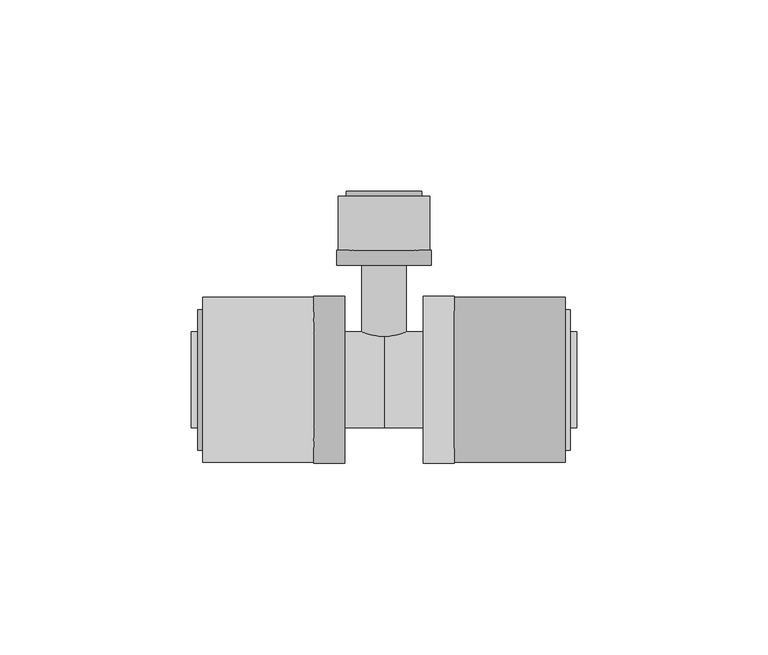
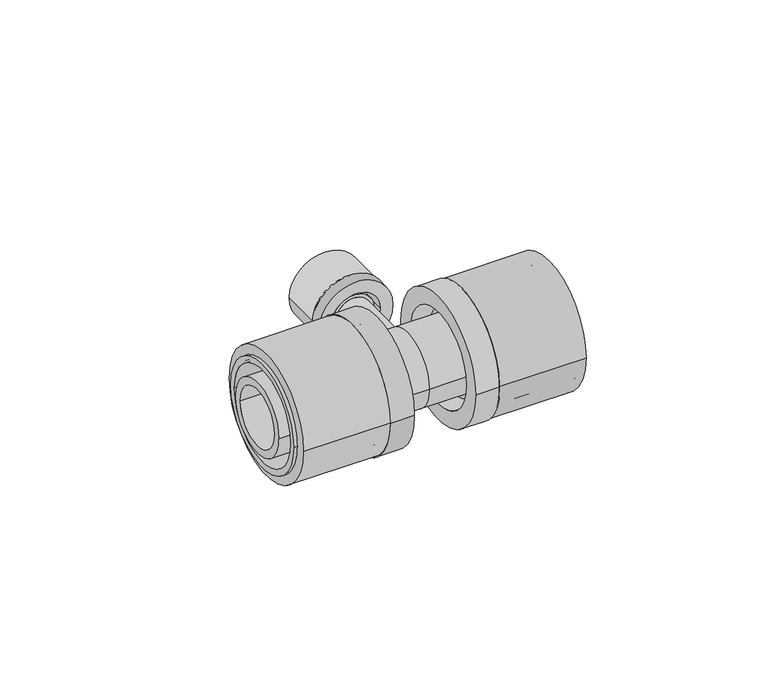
"""IFC4 building model written with IfcOpenShell, lengths in millimetres: pipe fitting geometry, FASTLOC_T-piece_EX+ : FSL T-Piece EX+ AT."""

from ifc_helpers import new_model, si_unit, point, frame, origin, origin_2d, place, context, project, spatial, polyline, circle_curve, trimmed, segment, composite_curve, outline, extrude, source, transform, mapped, element, save
from ifc_brep_helpers import plane_surface, cylinder_surface, revolved_surface, advanced_brep


def pipe_fitting_e42a4af1(model_context):
    return source(origin(), model_context, "Body", "SolidModel", [
        extrude(outline(composite_curve([segment(trimmed(circle_curve(origin_2d(), 21.5), [point((-21.5, 0.0))], [point((21.5, 0.0))], False, "CARTESIAN"), True, "CONTINUOUS"), segment(trimmed(circle_curve(origin_2d(), 21.5), [point((21.5, 0.0))], [point((-21.5, 0.0))], False, "CARTESIAN"), True, "CONTINUOUS")], self_intersect=False), holes=[composite_curve([segment(trimmed(circle_curve(origin_2d(), 16.85), [point((-16.85, 0.0))], [point((16.85, 0.0))], True, "CARTESIAN"), True, "CONTINUOUS"), segment(trimmed(circle_curve(origin_2d(), 16.85), [point((16.85, 0.0))], [point((-16.85, 0.0))], True, "CARTESIAN"), True, "CONTINUOUS")], self_intersect=False)]), frame((18.3, 0.0, 0.0), z_axis=(1.0, 0.0, 0.0), x_axis=(0.0, 1.0, 0.0)), (0.0, 0.0, 1.0), 29.0),
        advanced_brep(
        [(18.3, 21.8, 0.0), (18.3, -21.8, 0.0), (10.3, -21.8, 0.0), (10.3, 21.8, 0.0), (48.6, 18.35, 0.0), (48.6, -18.35, 0.0), (18.3, -18.35, 0.0), (18.3, 18.35, 0.0), (10.3, 16.2, 0.0), (10.3, -16.2, 0.0), (48.6, -16.2, 0.0), (48.6, 16.2, 0.0)],
        [
            (0, 1, circle_curve(frame((18.3, 0.0, 0.0), z_axis=(-1.0, 0.0, 0.0), x_axis=(0.0, -1.0, 0.0)), 21.8)),
            (1, 2),
            (2, 3, circle_curve(frame((10.3, 0.0, 0.0), z_axis=(1.0, 0.0, 0.0), x_axis=(0.0, -1.0, 0.0)), 21.8)),
            (3, 0),
            (4, 5, circle_curve(frame((48.6, 0.0, 0.0), z_axis=(-1.0, 0.0, 0.0), x_axis=(0.0, -1.0, 0.0)), 18.35)),
            (5, 6),
            (6, 7, circle_curve(frame((18.3, 0.0, 0.0), z_axis=(1.0, 0.0, 0.0), x_axis=(0.0, -1.0, 0.0)), 18.35)),
            (7, 4),
            (8, 9, circle_curve(frame((10.3, 0.0, 0.0), z_axis=(-1.0, 0.0, 0.0), x_axis=(0.0, -1.0, 0.0)), 16.2)),
            (9, 10),
            (10, 11, circle_curve(frame((48.6, 0.0, 0.0), z_axis=(1.0, 0.0, 0.0), x_axis=(0.0, -1.0, 0.0)), 16.2)),
            (11, 8),
            (1, 0, circle_curve(frame((18.3, 0.0, 0.0), z_axis=(-1.0, 0.0, 0.0), x_axis=(0.0, 1.0, 0.0)), 21.8)),
            (3, 2, circle_curve(frame((10.3, 0.0, 0.0), z_axis=(1.0, 0.0, 0.0), x_axis=(0.0, 1.0, 0.0)), 21.8)),
            (6, 7, circle_curve(frame((18.3, 0.0, 0.0), z_axis=(-1.0, 0.0, 0.0), x_axis=(0.0, 1.0, 0.0)), 18.35)),
            (5, 4, circle_curve(frame((48.6, 0.0, 0.0), z_axis=(-1.0, 0.0, 0.0), x_axis=(0.0, 1.0, 0.0)), 18.35)),
            (10, 11, circle_curve(frame((48.6, 0.0, 0.0), z_axis=(-1.0, 0.0, 0.0), x_axis=(0.0, 1.0, 0.0)), 16.2)),
            (9, 8, circle_curve(frame((10.3, 0.0, 0.0), z_axis=(-1.0, 0.0, 0.0), x_axis=(0.0, 1.0, 0.0)), 16.2)),
        ],
        [
            cylinder_surface(frame((10.3, 0.0, 0.0), z_axis=(1.0, 0.0, 0.0), x_axis=(0.0, -1.0, 0.0)), 21.8),
            cylinder_surface(frame((10.3, 0.0, 0.0), z_axis=(1.0, 0.0, 0.0), x_axis=(0.0, -1.0, 0.0)), 18.35),
            revolved_surface(polyline([(48.599999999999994, -16.2, 0.0), (10.3, -16.2, 0.0)]), (10.3, 0.0, 0.0), (1.0, 0.0, 0.0)),
            cylinder_surface(frame((10.3, 0.0, 0.0), z_axis=(1.0, 0.0, 0.0), x_axis=(0.0, 1.0, 0.0)), 21.8),
            plane_surface(frame((18.3, 0.0, 0.0), z_axis=(1.0, 0.0, 0.0), x_axis=(0.0, 1.0, 0.0))),
            cylinder_surface(frame((10.3, 0.0, 0.0), z_axis=(1.0, 0.0, 0.0), x_axis=(0.0, 1.0, 0.0)), 18.35),
            plane_surface(frame((48.6, 0.0, 0.0), z_axis=(1.0, 0.0, 0.0), x_axis=(0.0, 1.0, 0.0))),
            revolved_surface(polyline([(48.599999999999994, 16.2, 0.0), (10.3, 16.2, 0.0)]), (10.3, 0.0, 0.0), (1.0, 0.0, 0.0)),
            plane_surface(frame((10.3, 0.0, 0.0), z_axis=(-1.0, 0.0, 0.0), x_axis=(0.0, 1.0, 0.0))),
        ],
        [
            (0, [[1, 2, 3, 4]]),
            (1, [[5, 6, 7, 8]]),
            (2, [[9, 10, 11, 12]]),
            (3, [[13, -4, 14, -2]]),
            (4, [[-13, -1], [15, -7]]),
            (5, [[16, -8, -15, -6]]),
            (6, [[-16, -5], [17, -11]]),
            (7, [[18, -12, -17, -10]]),
            (8, [[-14, -3], [-18, -9]]),
        ],
    ),
        extrude(outline(composite_curve([segment(trimmed(circle_curve(origin_2d(), 21.5), [point((21.5, 0.0))], [point((-21.5, 0.0))], False, "CARTESIAN"), True, "CONTINUOUS"), segment(trimmed(circle_curve(origin_2d(), 21.5), [point((-21.5, 0.0))], [point((21.5, 0.0))], False, "CARTESIAN"), True, "CONTINUOUS")], self_intersect=False), holes=[composite_curve([segment(trimmed(circle_curve(origin_2d(), 16.85), [point((16.85, 0.0))], [point((-16.85, 0.0))], True, "CARTESIAN"), True, "CONTINUOUS"), segment(trimmed(circle_curve(origin_2d(), 16.85), [point((-16.85, 0.0))], [point((16.85, 0.0))], True, "CARTESIAN"), True, "CONTINUOUS")], self_intersect=False)]), frame((-47.3, 0.0, 0.0), z_axis=(1.0, 0.0, 0.0), x_axis=(0.0, 1.0, 0.0)), (0.0, 0.0, 1.0), 29.0),
        advanced_brep(
        [(-18.3, -21.8, 0.0), (-18.3, 21.8, 0.0), (-10.3, 21.8, 0.0), (-10.3, -21.8, 0.0), (-48.6, -18.35, 0.0), (-48.6, 18.35, 0.0), (-18.3, 18.35, 0.0), (-18.3, -18.35, 0.0), (-10.3, -16.2, 0.0), (-10.3, 16.2, 0.0), (-48.6, 16.2, 0.0), (-48.6, -16.2, 0.0)],
        [
            (0, 1, circle_curve(frame((-18.3, 0.0, 0.0), z_axis=(1.0, 0.0, 0.0), x_axis=(0.0, 1.0, 0.0)), 21.8)),
            (1, 2),
            (2, 3, circle_curve(frame((-10.3, 0.0, 0.0), z_axis=(-1.0, 0.0, 0.0), x_axis=(0.0, 1.0, 0.0)), 21.8)),
            (3, 0),
            (4, 5, circle_curve(frame((-48.6, 0.0, 0.0), z_axis=(1.0, 0.0, 0.0), x_axis=(0.0, 1.0, 0.0)), 18.35)),
            (5, 6),
            (6, 7, circle_curve(frame((-18.3, 0.0, 0.0), z_axis=(-1.0, 0.0, 0.0), x_axis=(0.0, 1.0, 0.0)), 18.35)),
            (7, 4),
            (8, 9, circle_curve(frame((-10.3, 0.0, 0.0), z_axis=(1.0, 0.0, 0.0), x_axis=(0.0, 1.0, 0.0)), 16.2)),
            (9, 10),
            (10, 11, circle_curve(frame((-48.6, 0.0, 0.0), z_axis=(-1.0, 0.0, 0.0), x_axis=(0.0, 1.0, 0.0)), 16.2)),
            (11, 8),
            (1, 0, circle_curve(frame((-18.3, 0.0, 0.0), z_axis=(1.0, 0.0, 0.0), x_axis=(0.0, -1.0, 0.0)), 21.8)),
            (3, 2, circle_curve(frame((-10.3, 0.0, 0.0), z_axis=(-1.0, 0.0, 0.0), x_axis=(0.0, -1.0, 0.0)), 21.8)),
            (6, 7, circle_curve(frame((-18.3, 0.0, 0.0), z_axis=(1.0, 0.0, 0.0), x_axis=(0.0, -1.0, 0.0)), 18.35)),
            (5, 4, circle_curve(frame((-48.6, 0.0, 0.0), z_axis=(1.0, 0.0, 0.0), x_axis=(0.0, -1.0, 0.0)), 18.35)),
            (10, 11, circle_curve(frame((-48.6, 0.0, 0.0), z_axis=(1.0, 0.0, 0.0), x_axis=(0.0, -1.0, 0.0)), 16.2)),
            (9, 8, circle_curve(frame((-10.3, 0.0, 0.0), z_axis=(1.0, 0.0, 0.0), x_axis=(0.0, -1.0, 0.0)), 16.2)),
        ],
        [
            cylinder_surface(frame((-10.3, 0.0, 0.0), z_axis=(-1.0, 0.0, 0.0), x_axis=(0.0, 1.0, 0.0)), 21.8),
            cylinder_surface(frame((-10.3, 0.0, 0.0), z_axis=(-1.0, 0.0, 0.0), x_axis=(0.0, 1.0, 0.0)), 18.35),
            revolved_surface(polyline([(-48.599999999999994, 16.2, 0.0), (-10.3, 16.2, 0.0)]), (-10.3, 0.0, 0.0), (-1.0, 0.0, 0.0)),
            cylinder_surface(frame((-10.3, 0.0, 0.0), z_axis=(-1.0, 0.0, 0.0), x_axis=(0.0, -1.0, 0.0)), 21.8),
            plane_surface(frame((-18.3, 0.0, 0.0), z_axis=(-1.0, 0.0, 0.0), x_axis=(0.0, -1.0, 0.0))),
            cylinder_surface(frame((-10.3, 0.0, 0.0), z_axis=(-1.0, 0.0, 0.0), x_axis=(0.0, -1.0, 0.0)), 18.35),
            plane_surface(frame((-48.6, 0.0, 0.0), z_axis=(-1.0, 0.0, 0.0), x_axis=(0.0, -1.0, 0.0))),
            revolved_surface(polyline([(-48.599999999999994, -16.2, 0.0), (-10.3, -16.2, 0.0)]), (-10.3, 0.0, 0.0), (-1.0, 0.0, 0.0)),
            plane_surface(frame((-10.3, 0.0, 0.0), z_axis=(1.0, 0.0, 0.0), x_axis=(0.0, -1.0, 0.0))),
        ],
        [
            (0, [[1, 2, 3, 4]]),
            (1, [[5, 6, 7, 8]]),
            (2, [[9, 10, 11, 12]]),
            (3, [[13, -4, 14, -2]]),
            (4, [[-13, -1], [15, -7]]),
            (5, [[16, -8, -15, -6]]),
            (6, [[-16, -5], [17, -11]]),
            (7, [[18, -12, -17, -10]]),
            (8, [[-14, -3], [-18, -9]]),
        ],
    ),
        extrude(outline(composite_curve([segment(trimmed(circle_curve(origin_2d(), 12.0), [point((0.0, 12.0))], [point((0.0, -12.0))], False, "CARTESIAN"), True, "CONTINUOUS"), segment(trimmed(circle_curve(origin_2d(), 12.0), [point((0.0, -12.0))], [point((0.0, 12.0))], False, "CARTESIAN"), True, "CONTINUOUS")], self_intersect=False), holes=[composite_curve([segment(trimmed(circle_curve(origin_2d(), 8.85), [point((0.0, 8.85))], [point((0.0, -8.85))], True, "CARTESIAN"), True, "CONTINUOUS"), segment(trimmed(circle_curve(origin_2d(), 8.85), [point((0.0, -8.85))], [point((0.0, 8.85))], True, "CARTESIAN"), True, "CONTINUOUS")], self_intersect=False)]), frame((0.0, 33.9, 0.0), z_axis=(0.0, 1.0, 0.0), x_axis=(0.0, 0.0, 1.0)), (0.0, 0.0, 1.0), 14.0),
        advanced_brep(
        [(-12.35, 33.9, 0.0), (12.35, 33.9, 0.0), (12.35, 29.9, 0.0), (-12.35, 29.9, 0.0), (-9.85, 49.2, 0.0), (9.85, 49.2, 0.0), (9.85, 33.9, 0.0), (-9.85, 33.9, 0.0), (-8.15, 29.9, 0.0), (8.15, 29.9, 0.0), (8.15, 49.2, 0.0), (-8.15, 49.2, 0.0)],
        [
            (0, 1, circle_curve(frame((0.0, 33.9, 0.0), z_axis=(0.0, -1.0, 0.0), x_axis=(1.0, 0.0, 0.0)), 12.35)),
            (1, 2),
            (2, 3, circle_curve(frame((0.0, 29.9, 0.0), z_axis=(0.0, 1.0, 0.0), x_axis=(1.0, 0.0, 0.0)), 12.35)),
            (3, 0),
            (4, 5, circle_curve(frame((0.0, 49.2, 0.0), z_axis=(0.0, -1.0, 0.0), x_axis=(1.0, 0.0, 0.0)), 9.85)),
            (5, 6),
            (6, 7, circle_curve(frame((0.0, 33.9, 0.0), z_axis=(0.0, 1.0, 0.0), x_axis=(1.0, 0.0, 0.0)), 9.85)),
            (7, 4),
            (8, 9, circle_curve(frame((0.0, 29.9, 0.0), z_axis=(0.0, -1.0, 0.0), x_axis=(1.0, 0.0, 0.0)), 8.15)),
            (9, 10),
            (10, 11, circle_curve(frame((0.0, 49.2, 0.0), z_axis=(0.0, 1.0, 0.0), x_axis=(1.0, 0.0, 0.0)), 8.15)),
            (11, 8),
            (1, 0, circle_curve(frame((0.0, 33.9, 0.0), z_axis=(0.0, -1.0, 0.0), x_axis=(-1.0, 0.0, 0.0)), 12.35)),
            (3, 2, circle_curve(frame((0.0, 29.9, 0.0), z_axis=(0.0, 1.0, 0.0), x_axis=(-1.0, 0.0, 0.0)), 12.35)),
            (6, 7, circle_curve(frame((0.0, 33.9, 0.0), z_axis=(0.0, -1.0, 0.0), x_axis=(-1.0, 0.0, 0.0)), 9.85)),
            (5, 4, circle_curve(frame((0.0, 49.2, 0.0), z_axis=(0.0, -1.0, 0.0), x_axis=(-1.0, 0.0, 0.0)), 9.85)),
            (10, 11, circle_curve(frame((0.0, 49.2, 0.0), z_axis=(0.0, -1.0, 0.0), x_axis=(-1.0, 0.0, 0.0)), 8.15)),
            (9, 8, circle_curve(frame((0.0, 29.9, 0.0), z_axis=(0.0, -1.0, 0.0), x_axis=(-1.0, 0.0, 0.0)), 8.15)),
        ],
        [
            cylinder_surface(frame((0.0, 29.9, 0.0), z_axis=(0.0, 1.0, 0.0), x_axis=(1.0, 0.0, 0.0)), 12.35),
            cylinder_surface(frame((0.0, 29.9, 0.0), z_axis=(0.0, 1.0, 0.0), x_axis=(1.0, 0.0, 0.0)), 9.85),
            revolved_surface(polyline([(8.15, 49.2, 0.0), (8.15, 29.9, 0.0)]), (0.0, 29.9, 0.0), (0.0, 1.0, 0.0)),
            cylinder_surface(frame((0.0, 29.9, 0.0), z_axis=(0.0, 1.0, 0.0), x_axis=(-1.0, 0.0, 0.0)), 12.35),
            plane_surface(frame((0.0, 33.9, 0.0), z_axis=(0.0, 1.0, 0.0), x_axis=(-1.0, 0.0, 0.0))),
            cylinder_surface(frame((0.0, 29.9, 0.0), z_axis=(0.0, 1.0, 0.0), x_axis=(-1.0, 0.0, 0.0)), 9.85),
            plane_surface(frame((0.0, 49.2, 0.0), z_axis=(0.0, 1.0, 0.0), x_axis=(-1.0, 0.0, 0.0))),
            revolved_surface(polyline([(-8.15, 49.2, 0.0), (-8.15, 29.9, 0.0)]), (0.0, 29.9, 0.0), (0.0, 1.0, 0.0)),
            plane_surface(frame((0.0, 29.9, 0.0), z_axis=(0.0, -1.0, 0.0), x_axis=(-1.0, 0.0, 0.0))),
        ],
        [
            (0, [[1, 2, 3, 4]]),
            (1, [[5, 6, 7, 8]]),
            (2, [[9, 10, 11, 12]]),
            (3, [[13, -4, 14, -2]]),
            (4, [[-13, -1], [15, -7]]),
            (5, [[16, -8, -15, -6]]),
            (6, [[-16, -5], [17, -11]]),
            (7, [[18, -12, -17, -10]]),
            (8, [[-14, -3], [-18, -9]]),
        ],
    ),
        advanced_brep(
        [(0.0, 12.5, 0.0), (0.0, -12.5, 0.0), (-15.3, -12.5, 0.0), (-15.3, 12.5, 0.0), (15.3, 12.5, 0.0), (15.3, -12.5, 0.0), (18.3, 14.1, 0.0), (18.3, -14.1, 0.0), (15.3, -14.1, 0.0), (15.3, 14.1, 0.0), (50.3, 12.5, 0.0), (50.3, -12.5, 0.0), (18.3, -12.5, 0.0), (18.3, 12.5, 0.0), (-50.3, 9.85, 0.0), (-50.3, -9.85, 0.0), (50.3, -9.85, 0.0), (50.3, 9.85, 0.0), (-18.3, 12.5, 0.0), (-18.3, -12.5, 0.0), (-50.3, -12.5, 0.0), (-50.3, 12.5, 0.0), (-15.3, 14.1, 0.0), (-15.3, -14.1, 0.0), (-18.3, -14.1, 0.0), (-18.3, 14.1, 0.0)],
        [
            (0, 1, circle_curve(frame((0.0, 0.0, 0.0), z_axis=(-1.0, 0.0, 0.0), x_axis=(0.0, -1.0, 0.0)), 12.5)),
            (1, 2),
            (2, 3, circle_curve(frame((-15.3, 0.0, 0.0), z_axis=(1.0, 0.0, 0.0), x_axis=(0.0, -1.0, 0.0)), 12.5)),
            (3, 0),
            (4, 5, circle_curve(frame((15.3, 0.0, 0.0), z_axis=(-1.0, 0.0, 0.0), x_axis=(0.0, -1.0, 0.0)), 12.5)),
            (5, 1),
            (0, 4),
            (6, 7, circle_curve(frame((18.3, 0.0, 0.0), z_axis=(-1.0, 0.0, 0.0), x_axis=(0.0, -1.0, 0.0)), 14.1)),
            (7, 8),
            (8, 9, circle_curve(frame((15.3, 0.0, 0.0), z_axis=(1.0, 0.0, 0.0), x_axis=(0.0, -1.0, 0.0)), 14.1)),
            (9, 6),
            (10, 11, circle_curve(frame((50.3, 0.0, 0.0), z_axis=(-1.0, 0.0, 0.0), x_axis=(0.0, -1.0, 0.0)), 12.5)),
            (11, 12),
            (12, 13, circle_curve(frame((18.3, 0.0, 0.0), z_axis=(1.0, 0.0, 0.0), x_axis=(0.0, -1.0, 0.0)), 12.5)),
            (13, 10),
            (14, 15, circle_curve(frame((-50.3, 0.0, 0.0), z_axis=(-1.0, 0.0, 0.0), x_axis=(0.0, -1.0, 0.0)), 9.85)),
            (15, 16),
            (16, 17, circle_curve(frame((50.3, 0.0, 0.0), z_axis=(1.0, 0.0, 0.0), x_axis=(0.0, -1.0, 0.0)), 9.85)),
            (17, 14),
            (18, 19, circle_curve(frame((-18.3, 0.0, 0.0), z_axis=(-1.0, 0.0, 0.0), x_axis=(0.0, -1.0, 0.0)), 12.5)),
            (19, 20),
            (20, 21, circle_curve(frame((-50.3, 0.0, 0.0), z_axis=(1.0, 0.0, 0.0), x_axis=(0.0, -1.0, 0.0)), 12.5)),
            (21, 18),
            (22, 23, circle_curve(frame((-15.3, 0.0, 0.0), z_axis=(-1.0, 0.0, 0.0), x_axis=(0.0, -1.0, 0.0)), 14.1)),
            (23, 24),
            (24, 25, circle_curve(frame((-18.3, 0.0, 0.0), z_axis=(1.0, 0.0, 0.0), x_axis=(0.0, -1.0, 0.0)), 14.1)),
            (25, 22),
            (22, 23, circle_curve(frame((-15.3, 0.0, 0.0), z_axis=(1.0, 0.0, 0.0), x_axis=(0.0, 1.0, 0.0)), 14.1)),
            (2, 3, circle_curve(frame((-15.3, 0.0, 0.0), z_axis=(-1.0, 0.0, 0.0), x_axis=(0.0, 1.0, 0.0)), 12.5)),
            (1, 0, circle_curve(frame((0.0, 0.0, 0.0), z_axis=(-1.0, 0.0, 0.0), x_axis=(0.0, 1.0, 0.0)), 12.5)),
            (5, 4, circle_curve(frame((15.3, 0.0, 0.0), z_axis=(-1.0, 0.0, 0.0), x_axis=(0.0, 1.0, 0.0)), 12.5)),
            (8, 9, circle_curve(frame((15.3, 0.0, 0.0), z_axis=(-1.0, 0.0, 0.0), x_axis=(0.0, 1.0, 0.0)), 14.1)),
            (7, 6, circle_curve(frame((18.3, 0.0, 0.0), z_axis=(-1.0, 0.0, 0.0), x_axis=(0.0, 1.0, 0.0)), 14.1)),
            (12, 13, circle_curve(frame((18.3, 0.0, 0.0), z_axis=(-1.0, 0.0, 0.0), x_axis=(0.0, 1.0, 0.0)), 12.5)),
            (11, 10, circle_curve(frame((50.3, 0.0, 0.0), z_axis=(-1.0, 0.0, 0.0), x_axis=(0.0, 1.0, 0.0)), 12.5)),
            (16, 17, circle_curve(frame((50.3, 0.0, 0.0), z_axis=(-1.0, 0.0, 0.0), x_axis=(0.0, 1.0, 0.0)), 9.85)),
            (15, 14, circle_curve(frame((-50.3, 0.0, 0.0), z_axis=(-1.0, 0.0, 0.0), x_axis=(0.0, 1.0, 0.0)), 9.85)),
            (20, 21, circle_curve(frame((-50.3, 0.0, 0.0), z_axis=(-1.0, 0.0, 0.0), x_axis=(0.0, 1.0, 0.0)), 12.5)),
            (19, 18, circle_curve(frame((-18.3, 0.0, 0.0), z_axis=(-1.0, 0.0, 0.0), x_axis=(0.0, 1.0, 0.0)), 12.5)),
            (24, 25, circle_curve(frame((-18.3, 0.0, 0.0), z_axis=(-1.0, 0.0, 0.0), x_axis=(0.0, 1.0, 0.0)), 14.1)),
        ],
        [
            cylinder_surface(frame((0.0, 0.0, 0.0), z_axis=(1.0, 0.0, 0.0), x_axis=(0.0, -1.0, 0.0)), 12.5),
            cylinder_surface(frame((0.0, 0.0, 0.0), z_axis=(1.0, 0.0, 0.0), x_axis=(0.0, -1.0, 0.0)), 14.1),
            revolved_surface(polyline([(50.3, -9.85, 0.0), (-50.3, -9.85, 0.0)]), (0.0, 0.0, 0.0), (1.0, 0.0, 0.0)),
            plane_surface(frame((-15.3, 0.0, 0.0), z_axis=(1.0, 0.0, 0.0), x_axis=(0.0, 1.0, 0.0))),
            cylinder_surface(frame((0.0, 0.0, 0.0), z_axis=(1.0, 0.0, 0.0), x_axis=(0.0, 1.0, 0.0)), 12.5),
            plane_surface(frame((15.3, 0.0, 0.0), z_axis=(-1.0, 0.0, 0.0), x_axis=(0.0, 1.0, 0.0))),
            cylinder_surface(frame((0.0, 0.0, 0.0), z_axis=(1.0, 0.0, 0.0), x_axis=(0.0, 1.0, 0.0)), 14.1),
            plane_surface(frame((18.3, 0.0, 0.0), z_axis=(1.0, 0.0, 0.0), x_axis=(0.0, 1.0, 0.0))),
            plane_surface(frame((50.3, 0.0, 0.0), z_axis=(1.0, 0.0, 0.0), x_axis=(0.0, 1.0, 0.0))),
            revolved_surface(polyline([(50.3, 9.85, 0.0), (-50.3, 9.85, 0.0)]), (0.0, 0.0, 0.0), (1.0, 0.0, 0.0)),
            plane_surface(frame((-50.3, 0.0, 0.0), z_axis=(-1.0, 0.0, 0.0), x_axis=(0.0, 1.0, 0.0))),
            plane_surface(frame((-18.3, 0.0, 0.0), z_axis=(-1.0, 0.0, 0.0), x_axis=(0.0, 1.0, 0.0))),
        ],
        [
            (0, [[1, 2, 3, 4]]),
            (0, [[5, 6, -1, 7]]),
            (1, [[8, 9, 10, 11]]),
            (0, [[12, 13, 14, 15]]),
            (2, [[16, 17, 18, 19]]),
            (0, [[20, 21, 22, 23]]),
            (1, [[24, 25, 26, 27]]),
            (3, [[28, -24], [29, -3]]),
            (4, [[30, -4, -29, -2]]),
            (4, [[31, -7, -30, -6]]),
            (5, [[32, -10], [-31, -5]]),
            (6, [[33, -11, -32, -9]]),
            (7, [[-33, -8], [34, -14]]),
            (4, [[35, -15, -34, -13]]),
            (8, [[-35, -12], [36, -18]]),
            (9, [[37, -19, -36, -17]]),
            (10, [[38, -22], [-37, -16]]),
            (4, [[39, -23, -38, -21]]),
            (11, [[40, -26], [-39, -20]]),
            (6, [[-28, -27, -40, -25]]),
        ],
    ),
        advanced_brep(
        [(3.95, 48.9, 0.0), (-3.95, 48.9, 0.0), (-3.95, 0.0, 0.0), (3.95, 0.0, 0.0), (5.8, 0.0, 0.0), (-5.8, 0.0, 0.0), (-5.8, 31.19, 0.0), (5.8, 31.19, 0.0), (6.9, 31.19, 0.0), (-6.9, 31.19, 0.0), (-6.9, 33.9, 0.0), (6.9, 33.9, 0.0), (5.8, 33.9, 0.0), (-5.8, 33.9, 0.0), (-5.8, 48.9, 0.0), (5.8, 48.9, 0.0)],
        [
            (0, 1, circle_curve(frame((0.0, 48.9, 0.0), z_axis=(0.0, 1.0, 0.0), x_axis=(-1.0, 0.0, 0.0)), 3.95)),
            (1, 2),
            (2, 3, circle_curve(frame((0.0, 0.0, 0.0), z_axis=(0.0, -1.0, 0.0), x_axis=(-1.0, 0.0, 0.0)), 3.95)),
            (3, 0),
            (4, 5, circle_curve(frame((0.0, 0.0, 0.0), z_axis=(0.0, 1.0, 0.0), x_axis=(-1.0, 0.0, 0.0)), 5.8)),
            (5, 6),
            (6, 7, circle_curve(frame((0.0, 31.19, 0.0), z_axis=(0.0, -1.0, 0.0), x_axis=(-1.0, 0.0, 0.0)), 5.8)),
            (7, 4),
            (8, 9, circle_curve(frame((0.0, 31.19, 0.0), z_axis=(0.0, 1.0, 0.0), x_axis=(-1.0, 0.0, 0.0)), 6.9)),
            (9, 10),
            (10, 11, circle_curve(frame((0.0, 33.9, 0.0), z_axis=(0.0, -1.0, 0.0), x_axis=(-1.0, 0.0, 0.0)), 6.9)),
            (11, 8),
            (12, 13, circle_curve(frame((0.0, 33.9, 0.0), z_axis=(0.0, 1.0, 0.0), x_axis=(-1.0, 0.0, 0.0)), 5.8)),
            (13, 14),
            (14, 15, circle_curve(frame((0.0, 48.9, 0.0), z_axis=(0.0, -1.0, 0.0), x_axis=(-1.0, 0.0, 0.0)), 5.8)),
            (15, 12),
            (1, 0, circle_curve(frame((0.0, 48.9, 0.0), z_axis=(0.0, 1.0, 0.0), x_axis=(1.0, 0.0, 0.0)), 3.95)),
            (3, 2, circle_curve(frame((0.0, 0.0, 0.0), z_axis=(0.0, -1.0, 0.0), x_axis=(1.0, 0.0, 0.0)), 3.95)),
            (4, 5, circle_curve(frame((0.0, 0.0, 0.0), z_axis=(0.0, -1.0, 0.0), x_axis=(1.0, 0.0, 0.0)), 5.8)),
            (7, 6, circle_curve(frame((0.0, 31.19, 0.0), z_axis=(0.0, -1.0, 0.0), x_axis=(1.0, 0.0, 0.0)), 5.8)),
            (8, 9, circle_curve(frame((0.0, 31.19, 0.0), z_axis=(0.0, -1.0, 0.0), x_axis=(1.0, 0.0, 0.0)), 6.9)),
            (11, 10, circle_curve(frame((0.0, 33.9, 0.0), z_axis=(0.0, -1.0, 0.0), x_axis=(1.0, 0.0, 0.0)), 6.9)),
            (12, 13, circle_curve(frame((0.0, 33.9, 0.0), z_axis=(0.0, -1.0, 0.0), x_axis=(1.0, 0.0, 0.0)), 5.8)),
            (15, 14, circle_curve(frame((0.0, 48.9, 0.0), z_axis=(0.0, -1.0, 0.0), x_axis=(1.0, 0.0, 0.0)), 5.8)),
        ],
        [
            revolved_surface(polyline([(-3.95, 0.0, 0.0), (-3.95, 48.9, 0.0)]), (0.0, 0.0, 0.0), (0.0, -1.0, 0.0)),
            cylinder_surface(frame((0.0, 0.0, 0.0), z_axis=(0.0, -1.0, 0.0), x_axis=(-1.0, 0.0, 0.0)), 5.8),
            cylinder_surface(frame((0.0, 0.0, 0.0), z_axis=(0.0, -1.0, 0.0), x_axis=(-1.0, 0.0, 0.0)), 6.9),
            revolved_surface(polyline([(3.95, 0.0, 0.0), (3.95, 48.9, 0.0)]), (0.0, 0.0, 0.0), (0.0, -1.0, 0.0)),
            plane_surface(frame((0.0, 0.0, 0.0), z_axis=(0.0, -1.0, 0.0), x_axis=(1.0, 0.0, 0.0))),
            cylinder_surface(frame((0.0, 0.0, 0.0), z_axis=(0.0, -1.0, 0.0), x_axis=(1.0, 0.0, 0.0)), 5.8),
            plane_surface(frame((0.0, 31.19, 0.0), z_axis=(0.0, -1.0, 0.0), x_axis=(1.0, 0.0, 0.0))),
            cylinder_surface(frame((0.0, 0.0, 0.0), z_axis=(0.0, -1.0, 0.0), x_axis=(1.0, 0.0, 0.0)), 6.9),
            plane_surface(frame((0.0, 33.9, 0.0), z_axis=(0.0, 1.0, 0.0), x_axis=(1.0, 0.0, 0.0))),
            plane_surface(frame((0.0, 48.9, 0.0), z_axis=(0.0, 1.0, 0.0), x_axis=(1.0, 0.0, 0.0))),
        ],
        [
            (0, [[1, 2, 3, 4]]),
            (1, [[5, 6, 7, 8]]),
            (2, [[9, 10, 11, 12]]),
            (1, [[13, 14, 15, 16]]),
            (3, [[17, -4, 18, -2]]),
            (4, [[19, -5], [-18, -3]]),
            (5, [[-19, -8, 20, -6]]),
            (6, [[21, -9], [-20, -7]]),
            (7, [[-21, -12, 22, -10]]),
            (8, [[-22, -11], [23, -13]]),
            (5, [[-23, -16, 24, -14]]),
            (9, [[-24, -15], [-17, -1]]),
        ],
    ),
    ])


if __name__ == "__main__":
    model = new_model("IFC4")
    model_context = context("Model", 3, world=origin())
    ifc_project = project(units=[si_unit("LENGTHUNIT", "METRE", prefix="MILLI")], contexts=[model_context])
    site = spatial("IfcSite", under=ifc_project)
    building = spatial("IfcBuilding", under=site)
    placement = place(None, origin())
    pipe_fitting_shape = pipe_fitting_e42a4af1(model_context)
    element("IfcPipeFitting", 1, ObjectType="FASTLOC_T-piece_EX+ : FSL T-Piece EX+ AT", at=placement, inside=building, context=model_context, shape_type="MappedRepresentation", body=[
        mapped(pipe_fitting_shape, transform((0.0, 0.0, 0.0), x_axis=(1.0, 0.0, 0.0), y_axis=(0.0, 1.0, 0.0), z_axis=(0.0, 0.0, 1.0))),
    ])
    save(model, "model.ifc")
